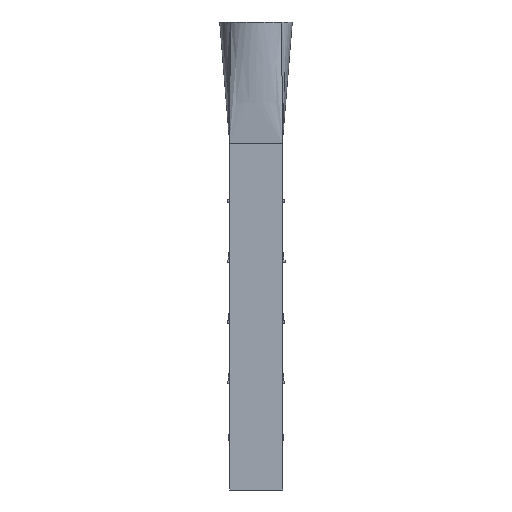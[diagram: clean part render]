
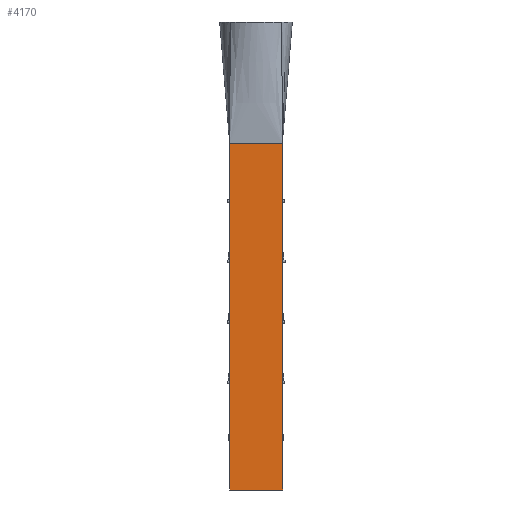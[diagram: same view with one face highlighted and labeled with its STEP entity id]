
A CAD part, front view. The second image highlights one B-rep face of the part: STEP entity #4170.
In plain terms, the highlighted planar face has unit normal (0, -1, 0) as drawn and (0, 0, -1) by its records, which use the part's own axes.
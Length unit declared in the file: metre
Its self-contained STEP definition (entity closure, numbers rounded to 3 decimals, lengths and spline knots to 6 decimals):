
#4170 = ADVANCED_FACE( '', ( #7289 ), #7290, .F. );
#7289 = FACE_OUTER_BOUND( '', #19004, .T. );
#7290 = PLANE( '', #19005 );
#19004 = EDGE_LOOP( '', ( #27877, #27878, #27879, #27880 ) );
#19005 = AXIS2_PLACEMENT_3D( '', #27881, #27882, #27883 );
#27877 = ORIENTED_EDGE( '', *, *, #29003, .F. );
#27878 = ORIENTED_EDGE( '', *, *, #28850, .F. );
#27879 = ORIENTED_EDGE( '', *, *, #30261, .F. );
#27880 = ORIENTED_EDGE( '', *, *, #29403, .F. );
#27881 = CARTESIAN_POINT( '', ( 0., 0., 0. ) );
#27882 = DIRECTION( '', ( 0., 0., 1. ) );
#27883 = DIRECTION( '', ( 1., 0., 0. ) );
#28850 = EDGE_CURVE( '', #31455, #31456, #31457, .T. );
#29003 = EDGE_CURVE( '', #31456, #31717, #31718, .T. );
#29403 = EDGE_CURVE( '', #31717, #32384, #32385, .T. );
#30261 = EDGE_CURVE( '', #32384, #31455, #33693, .T. );
#31455 = VERTEX_POINT( '', #35183 );
#31456 = VERTEX_POINT( '', #35184 );
#31457 = LINE( '', #35185, #35186 );
#31717 = VERTEX_POINT( '', #35629 );
#31718 = LINE( '', #35630, #35631 );
#32384 = VERTEX_POINT( '', #36879 );
#32385 = LINE( '', #36880, #36881 );
#33693 = LINE( '', #39096, #39097 );
#35183 = CARTESIAN_POINT( '', ( 0.15301, 1.000989, 0. ) );
#35184 = CARTESIAN_POINT( '', ( -0.15301, 1.000989, 0. ) );
#35185 = CARTESIAN_POINT( '', ( 0.15301, 1.000989, 0. ) );
#35186 = VECTOR( '', #41159, 1. );
#35629 = CARTESIAN_POINT( '', ( -0.15301, -1.000989, 0. ) );
#35630 = CARTESIAN_POINT( '', ( -0.15301, 1.000989, 0. ) );
#35631 = VECTOR( '', #41304, 1. );
#36879 = CARTESIAN_POINT( '', ( 0.15301, -1.000989, 0. ) );
#36880 = CARTESIAN_POINT( '', ( -0.15301, -1.000989, 0. ) );
#36881 = VECTOR( '', #41670, 1. );
#39096 = CARTESIAN_POINT( '', ( 0.15301, -1.000989, 0. ) );
#39097 = VECTOR( '', #42464, 1. );
#41159 = DIRECTION( '', ( -1., 0., 0. ) );
#41304 = DIRECTION( '', ( 0., -1., 0. ) );
#41670 = DIRECTION( '', ( 1., 0., 0. ) );
#42464 = DIRECTION( '', ( 0., 1., 0. ) );
